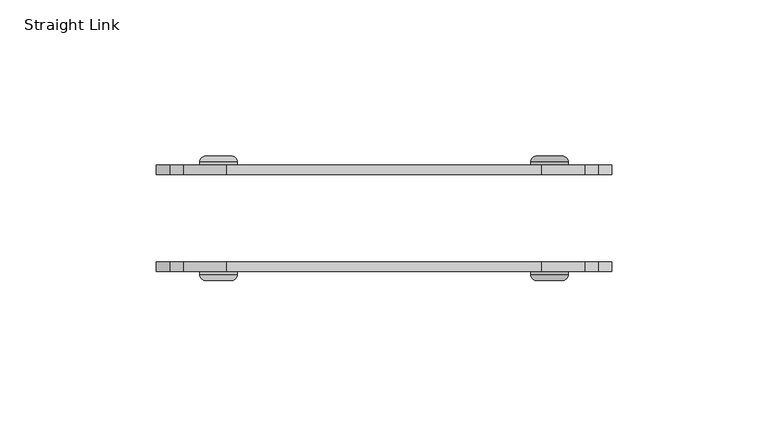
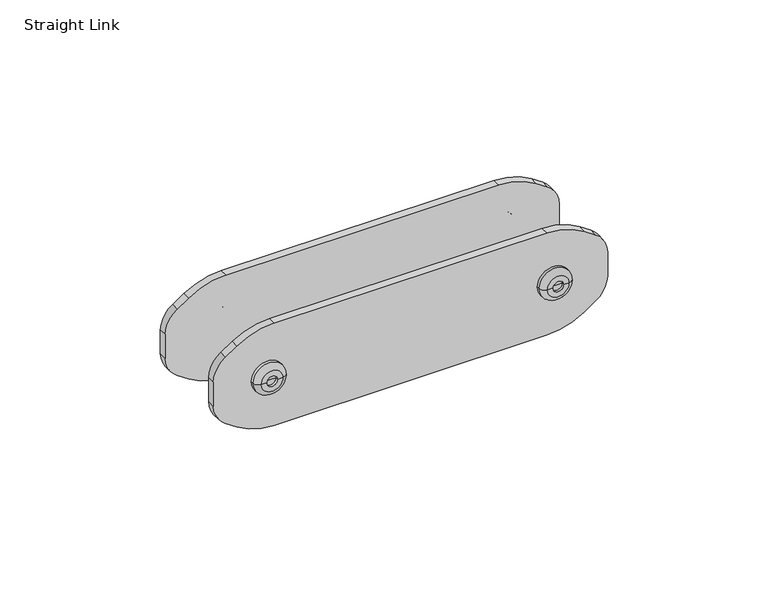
"""IFC4 building model written with IfcOpenShell, lengths in millimetres: furniture geometry, DBLTD_Sixteen3_PrivacyScreens_Artus_Bracket : Straight Link."""

from ifc_helpers import new_model, si_unit, point, frame, frame_2d, origin, place, context, project, spatial, polyline, circle_curve, ellipse_curve, trimmed, segment, composite_curve, outline, extrude, source, transform, mapped, element, save
from ifc_brep_helpers import plane_surface, cylinder_surface, revolved_surface, advanced_brep


def straight_link_5d8c671a(model_context):
    return source(origin(), model_context, "Body", "SolidModel", [
        advanced_brep(
        [(47.0, 803.0, 100.0), (59.0, 803.0, 100.0), (59.0, 802.0141801, 100.0), (47.0, 802.0141801, 100.0), (53.0, 803.0, 100.0), (51.0, 801.0, 100.0), (55.0, 801.0, 100.0), (53.0, 801.0, 100.0), (51.0, 800.0, 100.0), (55.0, 800.0, 100.0), (49.0141801, 800.0, 100.0), (56.9858199, 800.0, 100.0)],
        [
            (0, 1, circle_curve(frame((53.0, 803.0, 100.0), z_axis=(0.0, -1.0, 0.0), x_axis=(1.0, 0.0, 0.0)), 6.0)),
            (1, 2),
            (2, 3, circle_curve(frame((53.0, 802.0141801, 100.0), z_axis=(0.0, 1.0, 0.0), x_axis=(1.0, 0.0, 0.0)), 6.0)),
            (3, 0),
            (1, 0, circle_curve(frame((53.0, 803.0, 100.0), z_axis=(0.0, -1.0, 0.0), x_axis=(1.0, 0.0, 0.0)), 6.0)),
            (3, 2, circle_curve(frame((53.0, 802.0141801, 100.0), z_axis=(0.0, 1.0, 0.0), x_axis=(1.0, 0.0, 0.0)), 6.0)),
            (4, 1),
            (0, 4),
            (5, 6, circle_curve(frame((53.0, 801.0, 100.0), z_axis=(0.0, -1.0, 0.0), x_axis=(1.0, 0.0, 0.0)), 2.0)),
            (6, 7),
            (7, 5),
            (6, 5, circle_curve(frame((53.0, 801.0, 100.0), z_axis=(0.0, -1.0, 0.0), x_axis=(1.0, 0.0, 0.0)), 2.0)),
            (8, 9, circle_curve(frame((53.0, 800.0, 100.0), z_axis=(0.0, -1.0, 0.0), x_axis=(1.0, 0.0, 0.0)), 2.0)),
            (9, 6),
            (5, 8),
            (9, 8, circle_curve(frame((53.0, 800.0, 100.0), z_axis=(0.0, -1.0, 0.0), x_axis=(1.0, 0.0, 0.0)), 2.0)),
            (10, 11, circle_curve(frame((53.0, 800.0, 100.0), z_axis=(0.0, -1.0, 0.0), x_axis=(1.0, 0.0, 0.0)), 3.9858199)),
            (11, 9),
            (8, 10),
            (11, 10, circle_curve(frame((53.0, 800.0, 100.0), z_axis=(0.0, -1.0, 0.0), x_axis=(1.0, 0.0, 0.0)), 3.9858199)),
            (2, 11, circle_curve(frame((56.9858199, 802.0141801, 100.0), z_axis=(0.0, 0.0, -1.0), x_axis=(-1.0, 0.0, 0.0)), 2.0141801)),
            (10, 3, circle_curve(frame((49.0141801, 802.0141801, 100.0), z_axis=(0.0, 0.0, -1.0), x_axis=(1.0, 0.0, 0.0)), 2.0141801)),
        ],
        [
            cylinder_surface(frame((53.0, 801.575526, 100.0), z_axis=(0.0, 1.0, 0.0), x_axis=(1.0, 0.0, 0.0)), 6.0),
            plane_surface(frame((53.0, 803.0, 100.0), z_axis=(0.0, 1.0, 0.0), x_axis=(1.0, 0.0, 0.0))),
            plane_surface(frame((53.0, 801.0, 100.0), z_axis=(0.0, -1.0, 0.0), x_axis=(1.0, 0.0, 0.0))),
            revolved_surface(polyline([(55.0, 801.0, 100.0), (55.0, 800.0, 100.0)]), (53.0, 801.575526, 100.0), (0.0, 1.0, 0.0)),
            plane_surface(frame((53.0, 800.0, 100.0), z_axis=(0.0, -1.0, 0.0), x_axis=(1.0, 0.0, 0.0))),
            revolved_surface(trimmed(ellipse_curve(frame((56.9858199, 802.0141801, 100.0), z_axis=(0.0, 0.0, 1.0), x_axis=(-1.0, 0.0, 0.0)), 2.0141801, 2.0141801), [point((56.9858199, 800.0, 100.0))], [point((59.0, 802.0141801, 100.0))], True, "CARTESIAN"), (53.0, 801.575526, 100.0), (0.0, 1.0, 0.0)),
        ],
        [
            (0, [[1, 2, 3, 4]]),
            (0, [[5, -4, 6, -2]]),
            (1, [[7, -1, 8]]),
            (1, [[-8, -5, -7]]),
            (2, [[9, 10, 11]]),
            (2, [[12, -11, -10]]),
            (3, [[13, 14, -9, 15]]),
            (3, [[16, -15, -12, -14]]),
            (4, [[17, 18, -13, 19]]),
            (4, [[20, -19, -16, -18]]),
            (5, [[-3, 21, -17, 22]]),
            (5, [[-6, -22, -20, -21]]),
        ],
    ),
        advanced_brep(
        [(47.0, 837.9858199, 100.0), (59.0, 837.9858199, 100.0), (59.0, 837.0, 100.0), (47.0, 837.0, 100.0), (53.0, 837.0, 100.0), (53.0, 839.0, 100.0), (55.0, 839.0, 100.0), (51.0, 839.0, 100.0), (55.0, 840.0, 100.0), (51.0, 840.0, 100.0), (56.9858199, 840.0, 100.0), (49.0141801, 840.0, 100.0)],
        [
            (0, 1, circle_curve(frame((53.0, 837.9858199, 100.0), z_axis=(0.0, -1.0, 0.0), x_axis=(1.0, 0.0, 0.0)), 6.0)),
            (1, 2),
            (2, 3, circle_curve(frame((53.0, 837.0, 100.0), z_axis=(0.0, 1.0, 0.0), x_axis=(1.0, 0.0, 0.0)), 6.0)),
            (3, 0),
            (1, 0, circle_curve(frame((53.0, 837.9858199, 100.0), z_axis=(0.0, -1.0, 0.0), x_axis=(1.0, 0.0, 0.0)), 6.0)),
            (3, 2, circle_curve(frame((53.0, 837.0, 100.0), z_axis=(0.0, 1.0, 0.0), x_axis=(1.0, 0.0, 0.0)), 6.0)),
            (2, 4),
            (4, 3),
            (5, 6),
            (6, 7, circle_curve(frame((53.0, 839.0, 100.0), z_axis=(0.0, 1.0, 0.0), x_axis=(1.0, 0.0, 0.0)), 2.0)),
            (7, 5),
            (7, 6, circle_curve(frame((53.0, 839.0, 100.0), z_axis=(0.0, 1.0, 0.0), x_axis=(1.0, 0.0, 0.0)), 2.0)),
            (6, 8),
            (8, 9, circle_curve(frame((53.0, 840.0, 100.0), z_axis=(0.0, 1.0, 0.0), x_axis=(1.0, 0.0, 0.0)), 2.0)),
            (9, 7),
            (9, 8, circle_curve(frame((53.0, 840.0, 100.0), z_axis=(0.0, 1.0, 0.0), x_axis=(1.0, 0.0, 0.0)), 2.0)),
            (8, 10),
            (10, 11, circle_curve(frame((53.0, 840.0, 100.0), z_axis=(0.0, 1.0, 0.0), x_axis=(1.0, 0.0, 0.0)), 3.9858199)),
            (11, 9),
            (11, 10, circle_curve(frame((53.0, 840.0, 100.0), z_axis=(0.0, 1.0, 0.0), x_axis=(1.0, 0.0, 0.0)), 3.9858199)),
            (10, 1, circle_curve(frame((56.9858199, 837.9858199, 100.0), z_axis=(0.0, 0.0, -1.0), x_axis=(-1.0, 0.0, 0.0)), 2.0141801)),
            (0, 11, circle_curve(frame((49.0141801, 837.9858199, 100.0), z_axis=(0.0, 0.0, -1.0), x_axis=(1.0, 0.0, 0.0)), 2.0141801)),
        ],
        [
            cylinder_surface(frame((53.0, 838.424474, 100.0), z_axis=(0.0, 1.0, 0.0), x_axis=(1.0, 0.0, 0.0)), 6.0),
            plane_surface(frame((53.0, 837.0, 100.0), z_axis=(0.0, -1.0, 0.0), x_axis=(1.0, 0.0, 0.0))),
            plane_surface(frame((53.0, 839.0, 100.0), z_axis=(0.0, 1.0, 0.0), x_axis=(1.0, 0.0, 0.0))),
            revolved_surface(polyline([(55.0, 840.0, 100.0), (55.0, 839.0, 100.0)]), (53.0, 838.424474, 100.0), (0.0, 1.0, 0.0)),
            plane_surface(frame((53.0, 840.0, 100.0), z_axis=(0.0, 1.0, 0.0), x_axis=(1.0, 0.0, 0.0))),
            revolved_surface(trimmed(ellipse_curve(frame((56.9858199, 837.9858199, 100.0), z_axis=(0.0, 0.0, 1.0), x_axis=(-1.0, 0.0, 0.0)), 2.0141801, 2.0141801), [point((59.0, 837.9858199, 100.0))], [point((56.9858199, 840.0, 100.0))], True, "CARTESIAN"), (53.0, 838.424474, 100.0), (0.0, 1.0, 0.0)),
        ],
        [
            (0, [[1, 2, 3, 4]]),
            (0, [[5, -4, 6, -2]]),
            (1, [[-3, 7, 8]]),
            (1, [[-6, -8, -7]]),
            (2, [[9, 10, 11]]),
            (2, [[-11, 12, -9]]),
            (3, [[-10, 13, 14, 15]]),
            (3, [[-12, -15, 16, -13]]),
            (4, [[-14, 17, 18, 19]]),
            (4, [[-16, -19, 20, -17]]),
            (5, [[-18, 21, -1, 22]]),
            (5, [[-20, -22, -5, -21]]),
        ],
    ),
        advanced_brep(
        [(-47.0, 802.0141801, 100.0), (-59.0, 802.0141801, 100.0), (-59.0, 803.0, 100.0), (-47.0, 803.0, 100.0), (-53.0, 803.0, 100.0), (-53.0, 801.0, 100.0), (-55.0, 801.0, 100.0), (-51.0, 801.0, 100.0), (-55.0, 800.0, 100.0), (-51.0, 800.0, 100.0), (-56.9858199, 800.0, 100.0), (-49.0141801, 800.0, 100.0)],
        [
            (0, 1, circle_curve(frame((-53.0, 802.0141801, 100.0), z_axis=(0.0, 1.0, 0.0), x_axis=(-1.0, 0.0, 0.0)), 6.0)),
            (1, 2),
            (2, 3, circle_curve(frame((-53.0, 803.0, 100.0), z_axis=(0.0, -1.0, 0.0), x_axis=(-1.0, 0.0, 0.0)), 6.0)),
            (3, 0),
            (1, 0, circle_curve(frame((-53.0, 802.0141801, 100.0), z_axis=(0.0, 1.0, 0.0), x_axis=(-1.0, 0.0, 0.0)), 6.0)),
            (3, 2, circle_curve(frame((-53.0, 803.0, 100.0), z_axis=(0.0, -1.0, 0.0), x_axis=(-1.0, 0.0, 0.0)), 6.0)),
            (2, 4),
            (4, 3),
            (5, 6),
            (6, 7, circle_curve(frame((-53.0, 801.0, 100.0), z_axis=(0.0, -1.0, 0.0), x_axis=(-1.0, 0.0, 0.0)), 2.0)),
            (7, 5),
            (7, 6, circle_curve(frame((-53.0, 801.0, 100.0), z_axis=(0.0, -1.0, 0.0), x_axis=(-1.0, 0.0, 0.0)), 2.0)),
            (6, 8),
            (8, 9, circle_curve(frame((-53.0, 800.0, 100.0), z_axis=(0.0, -1.0, 0.0), x_axis=(-1.0, 0.0, 0.0)), 2.0)),
            (9, 7),
            (9, 8, circle_curve(frame((-53.0, 800.0, 100.0), z_axis=(0.0, -1.0, 0.0), x_axis=(-1.0, 0.0, 0.0)), 2.0)),
            (8, 10),
            (10, 11, circle_curve(frame((-53.0, 800.0, 100.0), z_axis=(0.0, -1.0, 0.0), x_axis=(-1.0, 0.0, 0.0)), 3.9858199)),
            (11, 9),
            (11, 10, circle_curve(frame((-53.0, 800.0, 100.0), z_axis=(0.0, -1.0, 0.0), x_axis=(-1.0, 0.0, 0.0)), 3.9858199)),
            (10, 1, circle_curve(frame((-56.9858199, 802.0141801, 100.0), z_axis=(0.0, 0.0, -1.0), x_axis=(1.0, 0.0, 0.0)), 2.0141801)),
            (0, 11, circle_curve(frame((-49.0141801, 802.0141801, 100.0), z_axis=(0.0, 0.0, -1.0), x_axis=(-1.0, 0.0, 0.0)), 2.0141801)),
        ],
        [
            cylinder_surface(frame((-53.0, 801.575526, 100.0), z_axis=(0.0, -1.0, 0.0), x_axis=(-1.0, 0.0, 0.0)), 6.0),
            plane_surface(frame((-53.0, 803.0, 100.0), z_axis=(0.0, 1.0, 0.0), x_axis=(-1.0, 0.0, 0.0))),
            plane_surface(frame((-53.0, 801.0, 100.0), z_axis=(0.0, -1.0, 0.0), x_axis=(-1.0, 0.0, 0.0))),
            revolved_surface(polyline([(-55.0, 800.0, 100.0), (-55.0, 801.0, 100.0)]), (-53.0, 801.575526, 100.0), (0.0, -1.0, 0.0)),
            plane_surface(frame((-53.0, 800.0, 100.0), z_axis=(0.0, -1.0, 0.0), x_axis=(-1.0, 0.0, 0.0))),
            revolved_surface(trimmed(ellipse_curve(frame((-56.9858199, 802.0141801, 100.0), z_axis=(0.0, 0.0, 1.0), x_axis=(1.0, 0.0, 0.0)), 2.0141801, 2.0141801), [point((-59.0, 802.0141801, 100.0))], [point((-56.9858199, 800.0, 100.0))], True, "CARTESIAN"), (-53.0, 801.575526, 100.0), (0.0, -1.0, 0.0)),
        ],
        [
            (0, [[1, 2, 3, 4]]),
            (0, [[5, -4, 6, -2]]),
            (1, [[-3, 7, 8]]),
            (1, [[-6, -8, -7]]),
            (2, [[9, 10, 11]]),
            (2, [[-11, 12, -9]]),
            (3, [[-10, 13, 14, 15]]),
            (3, [[-12, -15, 16, -13]]),
            (4, [[-14, 17, 18, 19]]),
            (4, [[-16, -19, 20, -17]]),
            (5, [[-18, 21, -1, 22]]),
            (5, [[-20, -22, -5, -21]]),
        ],
    ),
        advanced_brep(
        [(-47.0, 837.0, 100.0), (-59.0, 837.0, 100.0), (-59.0, 837.9858199, 100.0), (-47.0, 837.9858199, 100.0), (-53.0, 837.0, 100.0), (-51.0, 839.0, 100.0), (-55.0, 839.0, 100.0), (-53.0, 839.0, 100.0), (-51.0, 840.0, 100.0), (-55.0, 840.0, 100.0), (-49.0141801, 840.0, 100.0), (-56.9858199, 840.0, 100.0)],
        [
            (0, 1, circle_curve(frame((-53.0, 837.0, 100.0), z_axis=(0.0, 1.0, 0.0), x_axis=(-1.0, 0.0, 0.0)), 6.0)),
            (1, 2),
            (2, 3, circle_curve(frame((-53.0, 837.9858199, 100.0), z_axis=(0.0, -1.0, 0.0), x_axis=(-1.0, 0.0, 0.0)), 6.0)),
            (3, 0),
            (1, 0, circle_curve(frame((-53.0, 837.0, 100.0), z_axis=(0.0, 1.0, 0.0), x_axis=(-1.0, 0.0, 0.0)), 6.0)),
            (3, 2, circle_curve(frame((-53.0, 837.9858199, 100.0), z_axis=(0.0, -1.0, 0.0), x_axis=(-1.0, 0.0, 0.0)), 6.0)),
            (4, 1),
            (0, 4),
            (5, 6, circle_curve(frame((-53.0, 839.0, 100.0), z_axis=(0.0, 1.0, 0.0), x_axis=(-1.0, 0.0, 0.0)), 2.0)),
            (6, 7),
            (7, 5),
            (6, 5, circle_curve(frame((-53.0, 839.0, 100.0), z_axis=(0.0, 1.0, 0.0), x_axis=(-1.0, 0.0, 0.0)), 2.0)),
            (8, 9, circle_curve(frame((-53.0, 840.0, 100.0), z_axis=(0.0, 1.0, 0.0), x_axis=(-1.0, 0.0, 0.0)), 2.0)),
            (9, 6),
            (5, 8),
            (9, 8, circle_curve(frame((-53.0, 840.0, 100.0), z_axis=(0.0, 1.0, 0.0), x_axis=(-1.0, 0.0, 0.0)), 2.0)),
            (10, 11, circle_curve(frame((-53.0, 840.0, 100.0), z_axis=(0.0, 1.0, 0.0), x_axis=(-1.0, 0.0, 0.0)), 3.9858199)),
            (11, 9),
            (8, 10),
            (11, 10, circle_curve(frame((-53.0, 840.0, 100.0), z_axis=(0.0, 1.0, 0.0), x_axis=(-1.0, 0.0, 0.0)), 3.9858199)),
            (2, 11, circle_curve(frame((-56.9858199, 837.9858199, 100.0), z_axis=(0.0, 0.0, -1.0), x_axis=(1.0, 0.0, 0.0)), 2.0141801)),
            (10, 3, circle_curve(frame((-49.0141801, 837.9858199, 100.0), z_axis=(0.0, 0.0, -1.0), x_axis=(-1.0, 0.0, 0.0)), 2.0141801)),
        ],
        [
            cylinder_surface(frame((-53.0, 838.424474, 100.0), z_axis=(0.0, -1.0, 0.0), x_axis=(-1.0, 0.0, 0.0)), 6.0),
            plane_surface(frame((-53.0, 837.0, 100.0), z_axis=(0.0, -1.0, 0.0), x_axis=(-1.0, 0.0, 0.0))),
            plane_surface(frame((-53.0, 839.0, 100.0), z_axis=(0.0, 1.0, 0.0), x_axis=(-1.0, 0.0, 0.0))),
            revolved_surface(polyline([(-55.0, 839.0, 100.0), (-55.0, 840.0, 100.0)]), (-53.0, 838.424474, 100.0), (0.0, -1.0, 0.0)),
            plane_surface(frame((-53.0, 840.0, 100.0), z_axis=(0.0, 1.0, 0.0), x_axis=(-1.0, 0.0, 0.0))),
            revolved_surface(trimmed(ellipse_curve(frame((-56.9858199, 837.9858199, 100.0), z_axis=(0.0, 0.0, 1.0), x_axis=(1.0, 0.0, 0.0)), 2.0141801, 2.0141801), [point((-56.9858199, 840.0, 100.0))], [point((-59.0, 837.9858199, 100.0))], True, "CARTESIAN"), (-53.0, 838.424474, 100.0), (0.0, -1.0, 0.0)),
        ],
        [
            (0, [[1, 2, 3, 4]]),
            (0, [[5, -4, 6, -2]]),
            (1, [[7, -1, 8]]),
            (1, [[-8, -5, -7]]),
            (2, [[9, 10, 11]]),
            (2, [[12, -11, -10]]),
            (3, [[13, 14, -9, 15]]),
            (3, [[16, -15, -12, -14]]),
            (4, [[17, 18, -13, 19]]),
            (4, [[20, -19, -16, -18]]),
            (5, [[-3, 21, -17, 22]]),
            (5, [[-6, -22, -20, -21]]),
        ],
    ),
        extrude(outline(composite_curve([segment(polyline([(120.0, 50.4306091), (120.0, -50.4306091)]), True, "CONTINUOUS"), segment(trimmed(circle_curve(frame_2d((95.0, -50.4306091)), 25.0), [point((120.0, -50.4306091))], [point((115.8012574, -64.298114))], False, "CARTESIAN"), True, "CONTINUOUS"), segment(polyline([(115.8012574, -64.298114), (112.9686654, -68.547002)]), True, "CONTINUOUS"), segment(trimmed(circle_curve(frame_2d((104.6481624, -63.0)), 10.0), [point((112.9686654, -68.547002))], [point((104.6481624, -73.0))], False, "CARTESIAN"), True, "CONTINUOUS"), segment(polyline([(104.6481624, -73.0), (95.3518376, -73.0)]), True, "CONTINUOUS"), segment(trimmed(circle_curve(frame_2d((95.3518376, -63.0)), 10.0), [point((95.3518376, -73.0))], [point((87.0313346, -68.547002))], False, "CARTESIAN"), True, "CONTINUOUS"), segment(polyline([(87.0313346, -68.547002), (84.1987426, -64.298114)]), True, "CONTINUOUS"), segment(trimmed(circle_curve(frame_2d((105.0, -50.4306091)), 25.0), [point((84.1987426, -64.298114))], [point((80.0, -50.4306091))], False, "CARTESIAN"), True, "CONTINUOUS"), segment(polyline([(80.0, -50.4306091), (80.0, 50.4306091)]), True, "CONTINUOUS"), segment(trimmed(circle_curve(frame_2d((105.0, 50.4306091)), 25.0), [point((80.0, 50.4306091))], [point((84.1987426, 64.298114))], False, "CARTESIAN"), True, "CONTINUOUS"), segment(polyline([(84.1987426, 64.298114), (87.0313346, 68.547002)]), True, "CONTINUOUS"), segment(trimmed(circle_curve(frame_2d((95.3518376, 63.0)), 10.0), [point((87.0313346, 68.547002))], [point((95.3518376, 73.0))], False, "CARTESIAN"), True, "CONTINUOUS"), segment(polyline([(95.3518376, 73.0), (104.6481624, 73.0)]), True, "CONTINUOUS"), segment(trimmed(circle_curve(frame_2d((104.6481624, 63.0)), 10.0), [point((104.6481624, 73.0))], [point((112.9686654, 68.547002))], False, "CARTESIAN"), True, "CONTINUOUS"), segment(polyline([(112.9686654, 68.547002), (115.8012574, 64.298114)]), True, "CONTINUOUS"), segment(trimmed(circle_curve(frame_2d((95.0, 50.4306091)), 25.0), [point((115.8012574, 64.298114))], [point((120.0, 50.4306091))], False, "CARTESIAN"), True, "CONTINUOUS")], self_intersect=False)), frame((0.0, 803.0, 0.0), z_axis=(0.0, 1.0, 0.0), x_axis=(0.0, 0.0, 1.0)), (0.0, 0.0, 1.0), 3.0),
        extrude(outline(composite_curve([segment(polyline([(120.0, 50.4306091), (120.0, -50.4306091)]), True, "CONTINUOUS"), segment(trimmed(circle_curve(frame_2d((95.0, -50.4306091)), 25.0), [point((120.0, -50.4306091))], [point((115.8012574, -64.298114))], False, "CARTESIAN"), True, "CONTINUOUS"), segment(polyline([(115.8012574, -64.298114), (112.9686654, -68.547002)]), True, "CONTINUOUS"), segment(trimmed(circle_curve(frame_2d((104.6481624, -63.0)), 10.0), [point((112.9686654, -68.547002))], [point((104.6481624, -73.0))], False, "CARTESIAN"), True, "CONTINUOUS"), segment(polyline([(104.6481624, -73.0), (95.3518376, -73.0)]), True, "CONTINUOUS"), segment(trimmed(circle_curve(frame_2d((95.3518376, -63.0)), 10.0), [point((95.3518376, -73.0))], [point((87.0313346, -68.547002))], False, "CARTESIAN"), True, "CONTINUOUS"), segment(polyline([(87.0313346, -68.547002), (84.1987426, -64.298114)]), True, "CONTINUOUS"), segment(trimmed(circle_curve(frame_2d((105.0, -50.4306091)), 25.0), [point((84.1987426, -64.298114))], [point((80.0, -50.4306091))], False, "CARTESIAN"), True, "CONTINUOUS"), segment(polyline([(80.0, -50.4306091), (80.0, 50.4306091)]), True, "CONTINUOUS"), segment(trimmed(circle_curve(frame_2d((105.0, 50.4306091)), 25.0), [point((80.0, 50.4306091))], [point((84.1987426, 64.298114))], False, "CARTESIAN"), True, "CONTINUOUS"), segment(polyline([(84.1987426, 64.298114), (87.0313346, 68.547002)]), True, "CONTINUOUS"), segment(trimmed(circle_curve(frame_2d((95.3518376, 63.0)), 10.0), [point((87.0313346, 68.547002))], [point((95.3518376, 73.0))], False, "CARTESIAN"), True, "CONTINUOUS"), segment(polyline([(95.3518376, 73.0), (104.6481624, 73.0)]), True, "CONTINUOUS"), segment(trimmed(circle_curve(frame_2d((104.6481624, 63.0)), 10.0), [point((104.6481624, 73.0))], [point((112.9686654, 68.547002))], False, "CARTESIAN"), True, "CONTINUOUS"), segment(polyline([(112.9686654, 68.547002), (115.8012574, 64.298114)]), True, "CONTINUOUS"), segment(trimmed(circle_curve(frame_2d((95.0, 50.4306091)), 25.0), [point((115.8012574, 64.298114))], [point((120.0, 50.4306091))], False, "CARTESIAN"), True, "CONTINUOUS")], self_intersect=False)), frame((0.0, 834.0, 0.0), z_axis=(0.0, 1.0, 0.0), x_axis=(0.0, 0.0, 1.0)), (0.0, 0.0, 1.0), 3.0),
    ])


if __name__ == "__main__":
    model = new_model("IFC4")
    model_context = context("Model", 3, world=origin())
    ifc_project = project(units=[si_unit("LENGTHUNIT", "METRE", prefix="MILLI")], contexts=[model_context])
    site = spatial("IfcSite", under=ifc_project)
    building = spatial("IfcBuilding", under=site)
    placement = place(None, origin())
    straight_link_shape = straight_link_5d8c671a(model_context)
    element("IfcFurniture", 1, ObjectType="DBLTD_Sixteen3_PrivacyScreens_Artus_Bracket : Straight Link", at=placement, inside=building, context=model_context, shape_type="MappedRepresentation", body=[
        mapped(straight_link_shape, transform((0.0, 0.0, 0.0), x_axis=(1.0, 0.0, 0.0), y_axis=(0.0, 1.0, 0.0), z_axis=(0.0, 0.0, 1.0))),
    ])
    save(model, "model.ifc")
